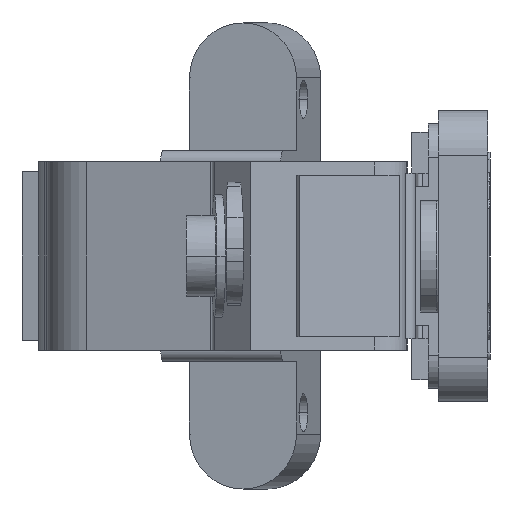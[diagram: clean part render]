
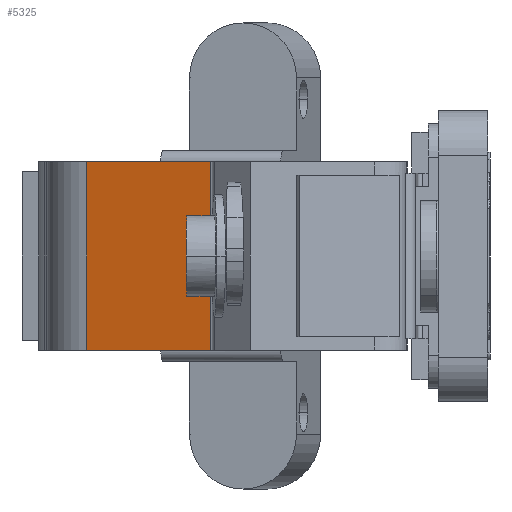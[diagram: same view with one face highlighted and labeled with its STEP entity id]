
A CAD part, left-side view. The second image highlights one B-rep face of the part: STEP entity #5325.
In plain terms, the highlighted planar face has unit normal (-0.96, 0.282, 0).
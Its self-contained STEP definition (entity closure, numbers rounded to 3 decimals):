
#25 = CARTESIAN_POINT ( 'NONE',  ( 32.238, 33.982, -92.033 ) ) ;
#775 = CARTESIAN_POINT ( 'NONE',  ( 28.993, 22.928, -92.033 ) ) ;
#837 = VERTEX_POINT ( 'NONE', #5856 ) ;
#1382 = AXIS2_PLACEMENT_3D ( 'NONE', #4833, #6235, #2628 ) ;
#2066 = LINE ( 'NONE', #3866, #3475 ) ;
#2123 = EDGE_CURVE ( 'NONE', #3007, #3932, #7181, .T. ) ;
#2378 = PLANE ( 'NONE',  #1382 ) ;
#2628 = DIRECTION ( 'NONE',  ( 0., 0., 1. ) ) ;
#2749 = LINE ( 'NONE', #3533, #4752 ) ;
#3007 = VERTEX_POINT ( 'NONE', #5894 ) ;
#3042 = VECTOR ( 'NONE', #4961, 1000. ) ;
#3287 = DIRECTION ( 'NONE',  ( 0., 0., -1. ) ) ;
#3475 = VECTOR ( 'NONE', #5978, 1000. ) ;
#3533 = CARTESIAN_POINT ( 'NONE',  ( 32.238, 33.982, -8.4 ) ) ;
#3619 = EDGE_CURVE ( 'NONE', #837, #3932, #2066, .T. ) ;
#3866 = CARTESIAN_POINT ( 'NONE',  ( 32.238, 33.982, 8.4 ) ) ;
#3932 = VERTEX_POINT ( 'NONE', #4847 ) ;
#3988 = ORIENTED_EDGE ( 'NONE', *, *, #3619, .F. ) ;
#4105 = VERTEX_POINT ( 'NONE', #5572 ) ;
#4461 = FACE_OUTER_BOUND ( 'NONE', #6652, .T. ) ;
#4690 = EDGE_CURVE ( 'NONE', #4105, #3007, #2749, .T. ) ;
#4752 = VECTOR ( 'NONE', #5525, 1000. ) ;
#4833 = CARTESIAN_POINT ( 'NONE',  ( 32.238, 33.982, -92.033 ) ) ;
#4847 = CARTESIAN_POINT ( 'NONE',  ( 28.993, 22.928, 8.4 ) ) ;
#4961 = DIRECTION ( 'NONE',  ( 0., 0., 1. ) ) ;
#5325 = ADVANCED_FACE ( 'NONE', ( #4461 ), #2378, .T. ) ;
#5525 = DIRECTION ( 'NONE',  ( -0.282, -0.96, 0. ) ) ;
#5527 = LINE ( 'NONE', #25, #6398 ) ;
#5572 = CARTESIAN_POINT ( 'NONE',  ( 32.238, 33.982, -8.4 ) ) ;
#5856 = CARTESIAN_POINT ( 'NONE',  ( 32.238, 33.982, 8.4 ) ) ;
#5894 = CARTESIAN_POINT ( 'NONE',  ( 28.993, 22.928, -8.4 ) ) ;
#5954 = ORIENTED_EDGE ( 'NONE', *, *, #2123, .T. ) ;
#5978 = DIRECTION ( 'NONE',  ( -0.282, -0.96, 0. ) ) ;
#6153 = ORIENTED_EDGE ( 'NONE', *, *, #4690, .T. ) ;
#6235 = DIRECTION ( 'NONE',  ( -0.96, 0.282, 0. ) ) ;
#6359 = EDGE_CURVE ( 'NONE', #837, #4105, #5527, .T. ) ;
#6398 = VECTOR ( 'NONE', #3287, 1000. ) ;
#6652 = EDGE_LOOP ( 'NONE', ( #7136, #6153, #5954, #3988 ) ) ;
#7136 = ORIENTED_EDGE ( 'NONE', *, *, #6359, .T. ) ;
#7181 = LINE ( 'NONE', #775, #3042 ) ;
